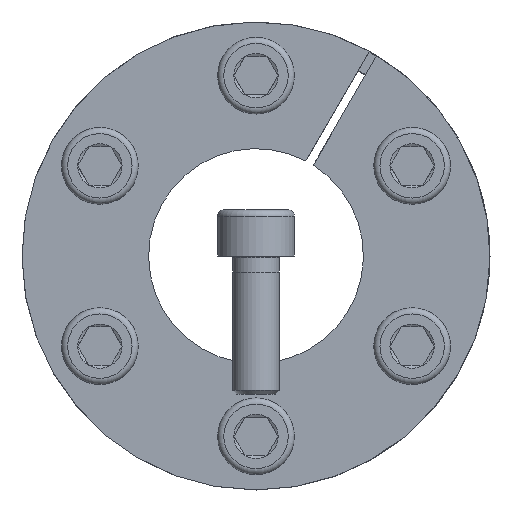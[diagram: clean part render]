
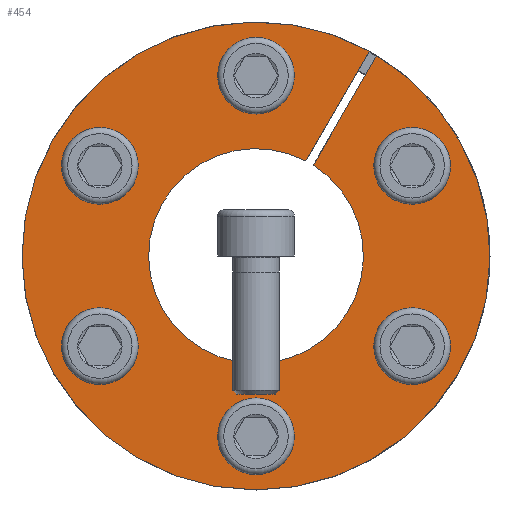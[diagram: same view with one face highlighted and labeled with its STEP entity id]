
A CAD part, front view. The second image highlights one B-rep face of the part: STEP entity #454.
In plain terms, the highlighted planar face has unit normal (0, -1, 0).
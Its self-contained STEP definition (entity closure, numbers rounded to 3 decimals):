
#454 = ADVANCED_FACE( '', ( #800, #801, #802, #803, #804, #805, #806 ), #807, .F. );
#800 = FACE_BOUND( '', #1240, .T. );
#801 = FACE_BOUND( '', #1241, .T. );
#802 = FACE_BOUND( '', #1242, .T. );
#803 = FACE_BOUND( '', #1243, .T. );
#804 = FACE_BOUND( '', #1244, .T. );
#805 = FACE_BOUND( '', #1245, .T. );
#806 = FACE_OUTER_BOUND( '', #1246, .T. );
#807 = PLANE( '', #1247 );
#1240 = EDGE_LOOP( '', ( #1789 ) );
#1241 = EDGE_LOOP( '', ( #1790 ) );
#1242 = EDGE_LOOP( '', ( #1791 ) );
#1243 = EDGE_LOOP( '', ( #1792 ) );
#1244 = EDGE_LOOP( '', ( #1793 ) );
#1245 = EDGE_LOOP( '', ( #1794 ) );
#1246 = EDGE_LOOP( '', ( #1795, #1796, #1797, #1798 ) );
#1247 = AXIS2_PLACEMENT_3D( '', #1799, #1800, #1801 );
#1789 = ORIENTED_EDGE( '', *, *, #2771, .T. );
#1790 = ORIENTED_EDGE( '', *, *, #2772, .T. );
#1791 = ORIENTED_EDGE( '', *, *, #2773, .T. );
#1792 = ORIENTED_EDGE( '', *, *, #2774, .T. );
#1793 = ORIENTED_EDGE( '', *, *, #2775, .T. );
#1794 = ORIENTED_EDGE( '', *, *, #2762, .T. );
#1795 = ORIENTED_EDGE( '', *, *, #2757, .T. );
#1796 = ORIENTED_EDGE( '', *, *, #2763, .T. );
#1797 = ORIENTED_EDGE( '', *, *, #2734, .T. );
#1798 = ORIENTED_EDGE( '', *, *, #2725, .F. );
#1799 = CARTESIAN_POINT( '', ( 0., 0., 30.5 ) );
#1800 = DIRECTION( '', ( 0., 1., 0. ) );
#1801 = DIRECTION( '', ( 0., 0., 1. ) );
#2725 = EDGE_CURVE( '', #3022, #3018, #3024, .T. );
#2734 = EDGE_CURVE( '', #3041, #3018, #3042, .T. );
#2757 = EDGE_CURVE( '', #3022, #3077, #3079, .T. );
#2762 = EDGE_CURVE( '', #3085, #3085, #3086, .T. );
#2763 = EDGE_CURVE( '', #3077, #3041, #3087, .T. );
#2771 = EDGE_CURVE( '', #3101, #3101, #3102, .T. );
#2772 = EDGE_CURVE( '', #3103, #3103, #3104, .T. );
#2773 = EDGE_CURVE( '', #3105, #3105, #3106, .T. );
#2774 = EDGE_CURVE( '', #3107, #3107, #3108, .T. );
#2775 = EDGE_CURVE( '', #3109, #3109, #3110, .T. );
#3018 = VERTEX_POINT( '', #3407 );
#3022 = VERTEX_POINT( '', #3412 );
#3024 = CIRCLE( '', #3415, 14. );
#3041 = VERTEX_POINT( '', #3440 );
#3042 = LINE( '', #3441, #3442 );
#3077 = VERTEX_POINT( '', #3506 );
#3079 = LINE( '', #3509, #3510 );
#3085 = VERTEX_POINT( '', #3516 );
#3086 = CIRCLE( '', #3517, 3. );
#3087 = CIRCLE( '', #3518, 30.5 );
#3101 = VERTEX_POINT( '', #3532 );
#3102 = CIRCLE( '', #3533, 3. );
#3103 = VERTEX_POINT( '', #3534 );
#3104 = CIRCLE( '', #3535, 3. );
#3105 = VERTEX_POINT( '', #3536 );
#3106 = CIRCLE( '', #3537, 3. );
#3107 = VERTEX_POINT( '', #3538 );
#3108 = CIRCLE( '', #3539, 3. );
#3109 = VERTEX_POINT( '', #3540 );
#3110 = CIRCLE( '', #3541, 3. );
#3407 = CARTESIAN_POINT( '', ( 7.477, 0., 11.836 ) );
#3412 = CARTESIAN_POINT( '', ( 6.512, 0., 12.393 ) );
#3415 = AXIS2_PLACEMENT_3D( '', #4132, #4133, #4134 );
#3440 = CARTESIAN_POINT( '', ( 15.73, 0., 26.131 ) );
#3441 = CARTESIAN_POINT( '', ( 15.732, 0., 26.135 ) );
#3442 = VECTOR( '', #4149, 1000. );
#3506 = CARTESIAN_POINT( '', ( 14.765, 0., 26.688 ) );
#3509 = CARTESIAN_POINT( '', ( 6.512, 0., 12.393 ) );
#3510 = VECTOR( '', #4174, 1000. );
#3516 = CARTESIAN_POINT( '', ( -18.852, 0., 14.348 ) );
#3517 = AXIS2_PLACEMENT_3D( '', #4187, #4188, #4189 );
#3518 = AXIS2_PLACEMENT_3D( '', #4190, #4191, #4192 );
#3532 = CARTESIAN_POINT( '', ( 3., 0., 23.5 ) );
#3533 = AXIS2_PLACEMENT_3D( '', #4214, #4215, #4216 );
#3534 = CARTESIAN_POINT( '', ( 21.852, 0., 9.152 ) );
#3535 = AXIS2_PLACEMENT_3D( '', #4217, #4218, #4219 );
#3536 = CARTESIAN_POINT( '', ( 18.852, 0., -14.348 ) );
#3537 = AXIS2_PLACEMENT_3D( '', #4220, #4221, #4222 );
#3538 = CARTESIAN_POINT( '', ( -3., 0., -23.5 ) );
#3539 = AXIS2_PLACEMENT_3D( '', #4223, #4224, #4225 );
#3540 = CARTESIAN_POINT( '', ( -21.852, 0., -9.152 ) );
#3541 = AXIS2_PLACEMENT_3D( '', #4226, #4227, #4228 );
#4132 = CARTESIAN_POINT( '', ( 0., 0., 0. ) );
#4133 = DIRECTION( '', ( 0., -1., 0. ) );
#4134 = DIRECTION( '', ( 0., 0., -1. ) );
#4149 = DIRECTION( '', ( -0.5, 0., -0.866 ) );
#4174 = DIRECTION( '', ( 0.5, 0., 0.866 ) );
#4187 = CARTESIAN_POINT( '', ( -20.352, 0., 11.75 ) );
#4188 = DIRECTION( '', ( 0., 1., 0. ) );
#4189 = DIRECTION( '', ( 0.5, 0., 0.866 ) );
#4190 = CARTESIAN_POINT( '', ( 0., 0., 0. ) );
#4191 = DIRECTION( '', ( 0., -1., 0. ) );
#4192 = DIRECTION( '', ( 0., 0., -1. ) );
#4214 = CARTESIAN_POINT( '', ( 0., 0., 23.5 ) );
#4215 = DIRECTION( '', ( 0., 1., 0. ) );
#4216 = DIRECTION( '', ( 1., 0., 0. ) );
#4217 = CARTESIAN_POINT( '', ( 20.352, 0., 11.75 ) );
#4218 = DIRECTION( '', ( 0., 1., 0. ) );
#4219 = DIRECTION( '', ( 0.5, 0., -0.866 ) );
#4220 = CARTESIAN_POINT( '', ( 20.352, 0., -11.75 ) );
#4221 = DIRECTION( '', ( 0., 1., 0. ) );
#4222 = DIRECTION( '', ( -0.5, 0., -0.866 ) );
#4223 = CARTESIAN_POINT( '', ( 0., 0., -23.5 ) );
#4224 = DIRECTION( '', ( 0., 1., 0. ) );
#4225 = DIRECTION( '', ( -1., 0., 0. ) );
#4226 = CARTESIAN_POINT( '', ( -20.352, 0., -11.75 ) );
#4227 = DIRECTION( '', ( 0., 1., 0. ) );
#4228 = DIRECTION( '', ( -0.5, 0., 0.866 ) );
